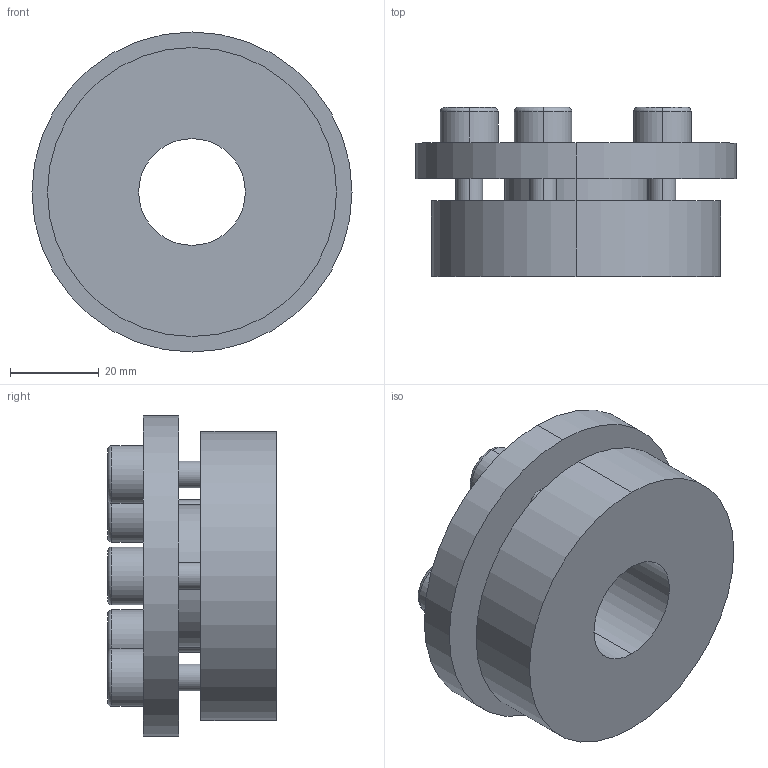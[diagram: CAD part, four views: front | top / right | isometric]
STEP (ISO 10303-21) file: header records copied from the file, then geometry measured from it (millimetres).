
FILE_DESCRIPTION (( 'STEP AP203' ), '1' );
FILE_NAME ('PL-H4 24-65.STEP', '2021-10-23T01:19:19', ( '' ), ( '' ), 'SwSTEP 2.0', 'SolidWorks 2018', '' );
FILE_SCHEMA (( 'CONFIG_CONTROL_DESIGN' ));
Length unit declared in the file: millimetre
Products named in the file (1): PL-H4 24-65
Bounding box: 72 x 38 x 72 mm (x, y, z)
Volume: 84833.5 mm3; surface area: 22442.9 mm2
Topology: 1 solids, 1 shells, 82 faces, 194 edges, 126 vertices
Faces by surface type: plane 44, cylinder 28, torus 10
Entity records: 2475 total; most frequent: DIRECTION 436, CARTESIAN_POINT 403, ORIENTED_EDGE 388, EDGE_CURVE 194, AXIS2_PLACEMENT_3D 159, VERTEX_POINT 126, LINE 118, VECTOR 118
